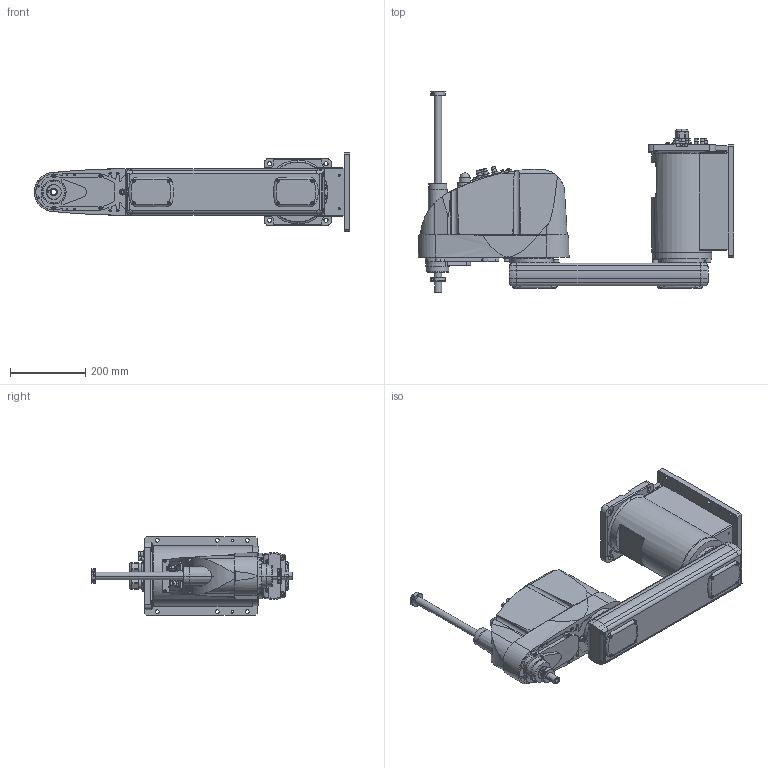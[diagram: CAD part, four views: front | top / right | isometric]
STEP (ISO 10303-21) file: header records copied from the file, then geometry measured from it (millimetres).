
FILE_DESCRIPTION( ( '' ), '1' );
FILE_NAME( '//expscmdclustefs.cadenas.external/client_exchange/iodir/jobs/output/wkb51546012_no0/STEP/G6_653SW_2_03.stp', '2012-11-23T12:56:22', ( '' ), ( '' ), ' ', ' ', ' ' );
FILE_SCHEMA( ( 'CONFIG_CONTROL_DESIGN' ) );
Length unit declared in the file: millimetre
Products named in the file (4): 1; 2; 3; 4
Bounding box: 840 x 535 x 210 mm (x, y, z)
Volume: 21845566.2 mm3; surface area: 990116.6 mm2
Topology: 4 solids, 4 shells, 1642 faces, 4038 edges, 2592 vertices
Faces by surface type: plane 844, cylinder 564, cone 202, torus 31, sphere 1
Entity records: 51594 total; most frequent: CARTESIAN_POINT 11769, DIRECTION 8484, ORIENTED_EDGE 8024, EDGE_CURVE 4012, AXIS2_PLACEMENT_3D 3027, VERTEX_POINT 2592, LINE 2430, VECTOR 2430
